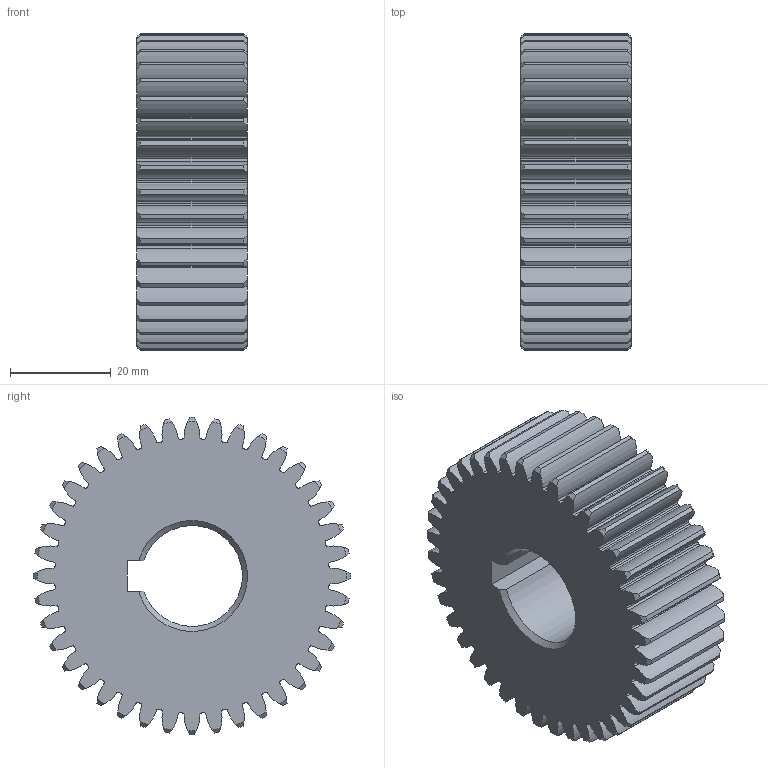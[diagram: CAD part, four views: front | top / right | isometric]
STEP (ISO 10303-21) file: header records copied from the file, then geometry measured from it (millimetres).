
FILE_DESCRIPTION(/* description */ (''),/* implementation_level */ '2;1');
FILE_NAME(/* name */ '',/* time_stamp */ '2025-11-19T16:42:10+09:00',/* author */ ('jhkim'),/* organization */ (''),/* preprocessor_version */ 'ST-DEVELOPER v20.1',/* originating_system */ 'Autodesk Inventor 2026',/* authorisation */ '');
FILE_SCHEMA (('AUTOMOTIVE_DESIGN { 1 0 10303 214 3 1 1 }'));
Length unit declared in the file: millimetre
Products named in the file (1): 구동 기어
Bounding box: 22 x 63 x 63 mm (x, y, z)
Volume: 53286.7 mm3; surface area: 15700.7 mm2
Topology: 1 solids, 1 shells, 328 faces, 978 edges, 652 vertices
Faces by surface type: cylinder 241, cone 82, plane 5
Entity records: 11549 total; most frequent: CARTESIAN_POINT 2447, DIRECTION 2036, ORIENTED_EDGE 1956, EDGE_CURVE 978, AXIS2_PLACEMENT_3D 893, VERTEX_POINT 652, CIRCLE 564, EDGE_LOOP 330
